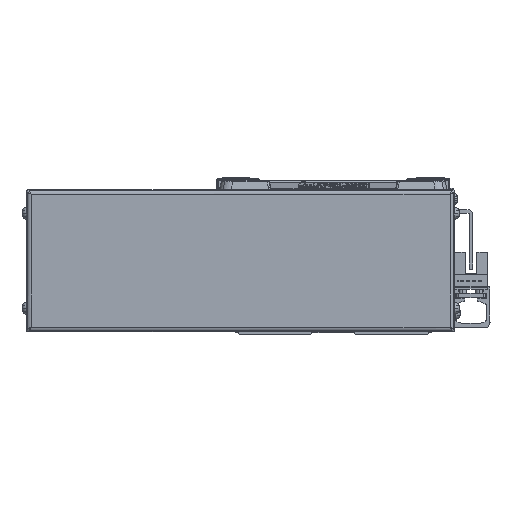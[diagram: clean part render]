
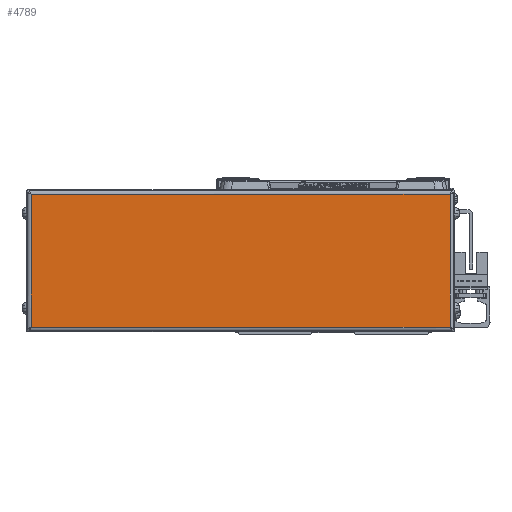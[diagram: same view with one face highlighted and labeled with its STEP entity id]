
A CAD part, left-side view. The second image highlights one B-rep face of the part: STEP entity #4789.
In plain terms, the highlighted planar face has unit normal (-1, 0, 0).
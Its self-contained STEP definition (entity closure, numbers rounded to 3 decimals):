
#4789=ADVANCED_FACE('',(#10724),#10725,.F.);
#10724=FACE_OUTER_BOUND('',#18274,.T.);
#10725=PLANE('',#18275);
#18274=EDGE_LOOP('',(#32225,#32226,#32227,#32228));
#18275=AXIS2_PLACEMENT_3D('',#32229,#32230,#32231);
#32225=ORIENTED_EDGE('',*,*,#48319,.T.);
#32226=ORIENTED_EDGE('',*,*,#48320,.T.);
#32227=ORIENTED_EDGE('',*,*,#47691,.T.);
#32228=ORIENTED_EDGE('',*,*,#47493,.T.);
#32229=CARTESIAN_POINT('',(-616.,39.,0.));
#32230=DIRECTION('',(1.0,0.,0.));
#32231=DIRECTION('',(0.,0.,1.0));
#47493=EDGE_CURVE('',#54059,#58297,#58299,.T.);
#47691=EDGE_CURVE('',#58578,#54059,#58579,.T.);
#48319=EDGE_CURVE('',#58297,#59478,#59479,.T.);
#48320=EDGE_CURVE('',#59478,#58578,#59480,.T.);
#54059=VERTEX_POINT('',#66968);
#58297=VERTEX_POINT('',#72798);
#58299=LINE('',#72800,#72801);
#58578=VERTEX_POINT('',#73281);
#58579=LINE('',#73282,#73283);
#59478=VERTEX_POINT('',#74505);
#59479=LINE('',#74506,#74507);
#59480=LINE('',#74508,#74509);
#66968=CARTESIAN_POINT('',(-616.,-49.2,-28.));
#72798=CARTESIAN_POINT('',(-616.,-49.2,28.));
#72800=CARTESIAN_POINT('',(-616.,-49.2,0.));
#72801=VECTOR('',#85330,10.0);
#73281=CARTESIAN_POINT('',(-616.0,127.2,-28.));
#73282=CARTESIAN_POINT('',(-616.,39.,-28.));
#73283=VECTOR('',#85546,10.0);
#74505=CARTESIAN_POINT('',(-616.,127.2,28.));
#74506=CARTESIAN_POINT('',(-616.,39.,28.));
#74507=VECTOR('',#86372,10.0);
#74508=CARTESIAN_POINT('',(-616.0,127.2,0.));
#74509=VECTOR('',#86373,10.0);
#85330=DIRECTION('',(0.,0.,1.0));
#85546=DIRECTION('',(0.,-1.0,0.));
#86372=DIRECTION('',(0.,1.0,0.));
#86373=DIRECTION('',(0.,0.,-1.0));
